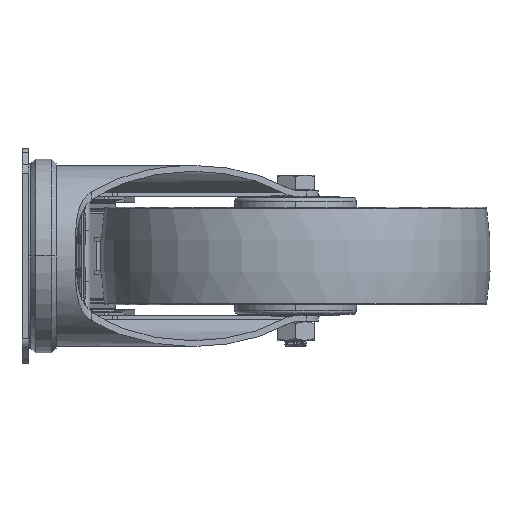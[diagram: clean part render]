
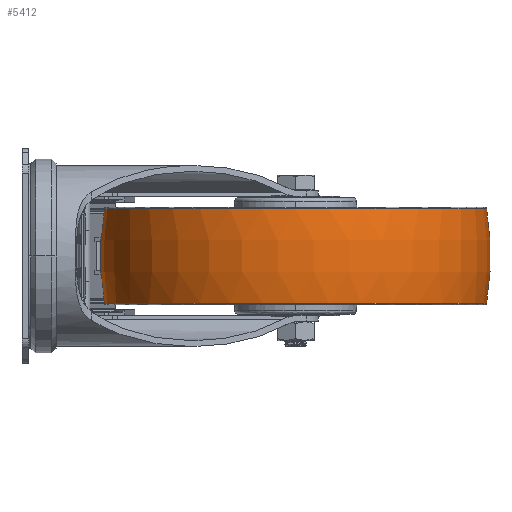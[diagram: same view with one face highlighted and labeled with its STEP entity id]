
A CAD part, left-side view. The second image highlights one B-rep face of the part: STEP entity #5412.
In plain terms, the highlighted toroidal (fillet/blend) face has major radius 50 mm and minor radius 150 mm.
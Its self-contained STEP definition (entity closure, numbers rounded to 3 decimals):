
#1761 = DIRECTION ( 'NONE',  ( 0., 1., 0. ) ) ;
#4568 = TOROIDAL_SURFACE ( 'NONE', #10841, -50., 150. ) ;
#5299 = ORIENTED_EDGE ( 'NONE', *, *, #41446, .T. ) ;
#5412 = ADVANCED_FACE ( 'NONE', ( #32405 ), #4568, .T. ) ;
#7387 = DIRECTION ( 'NONE',  ( 0., 0., 1. ) ) ;
#7660 = AXIS2_PLACEMENT_3D ( 'NONE', #40965, #11025, #49520 ) ;
#7690 = CARTESIAN_POINT ( 'NONE',  ( 0., 98.041, 24.161 ) ) ;
#9337 = DIRECTION ( 'NONE',  ( 0., 0., -1. ) ) ;
#10026 = ORIENTED_EDGE ( 'NONE', *, *, #13816, .T. ) ;
#10841 = AXIS2_PLACEMENT_3D ( 'NONE', #13455, #9337, #1761 ) ;
#11025 = DIRECTION ( 'NONE',  ( 0., 0., 1. ) ) ;
#13455 = CARTESIAN_POINT ( 'NONE',  ( 0., 0., 0. ) ) ;
#13816 = EDGE_CURVE ( 'NONE', #37521, #25524, #21175, .T. ) ;
#15728 = CARTESIAN_POINT ( 'NONE',  ( 0., 50., 0. ) ) ;
#18210 = CIRCLE ( 'NONE', #26983, 150. ) ;
#19002 = VERTEX_POINT ( 'NONE', #30960 ) ;
#21175 = CIRCLE ( 'NONE', #23029, 150. ) ;
#21510 = EDGE_LOOP ( 'NONE', ( #45941, #5299, #10026, #41567 ) ) ;
#23029 = AXIS2_PLACEMENT_3D ( 'NONE', #45758, #32619, #7387 ) ;
#24068 = DIRECTION ( 'NONE',  ( 0., 1., 0. ) ) ;
#24300 = DIRECTION ( 'NONE',  ( 0., 0., -1. ) ) ;
#25524 = VERTEX_POINT ( 'NONE', #46018 ) ;
#26035 = CIRCLE ( 'NONE', #7660, 98.041 ) ;
#26983 = AXIS2_PLACEMENT_3D ( 'NONE', #15728, #49409, #24068 ) ;
#27465 = VERTEX_POINT ( 'NONE', #36164 ) ;
#27966 = EDGE_CURVE ( 'NONE', #25524, #27465, #26035, .T. ) ;
#30960 = CARTESIAN_POINT ( 'NONE',  ( 0., -98.041, 24.161 ) ) ;
#32405 = FACE_OUTER_BOUND ( 'NONE', #21510, .T. ) ;
#32586 = CARTESIAN_POINT ( 'NONE',  ( 0., 0., 24.161 ) ) ;
#32619 = DIRECTION ( 'NONE',  ( -1., 0., 0. ) ) ;
#36164 = CARTESIAN_POINT ( 'NONE',  ( 0., -98.041, -24.161 ) ) ;
#37521 = VERTEX_POINT ( 'NONE', #7690 ) ;
#40965 = CARTESIAN_POINT ( 'NONE',  ( 0., 0., -24.161 ) ) ;
#41446 = EDGE_CURVE ( 'NONE', #19002, #37521, #46346, .T. ) ;
#41567 = ORIENTED_EDGE ( 'NONE', *, *, #27966, .T. ) ;
#44460 = EDGE_CURVE ( 'NONE', #19002, #27465, #18210, .T. ) ;
#45758 = CARTESIAN_POINT ( 'NONE',  ( 0., -50., 0. ) ) ;
#45941 = ORIENTED_EDGE ( 'NONE', *, *, #44460, .F. ) ;
#46018 = CARTESIAN_POINT ( 'NONE',  ( 0., 98.041, -24.161 ) ) ;
#46346 = CIRCLE ( 'NONE', #49205, 98.041 ) ;
#49205 = AXIS2_PLACEMENT_3D ( 'NONE', #32586, #24300, #54053 ) ;
#49409 = DIRECTION ( 'NONE',  ( 1., 0., 0. ) ) ;
#49520 = DIRECTION ( 'NONE',  ( -1., 0., 0. ) ) ;
#54053 = DIRECTION ( 'NONE',  ( -1., 0., 0. ) ) ;
